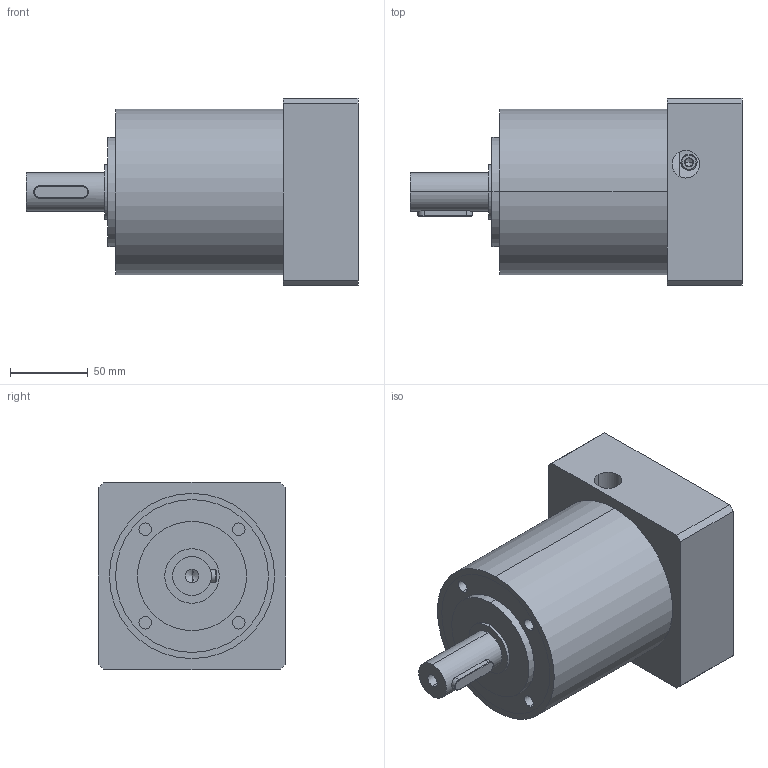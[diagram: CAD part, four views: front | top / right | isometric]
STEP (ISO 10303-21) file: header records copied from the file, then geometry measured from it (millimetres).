
FILE_DESCRIPTION (( 'STEP AP214' ), '1' );
FILE_NAME ('HTRG10N___MHS40224M_1stage_10.STEP', '2019-10-14T03:32:19', ( '' ), ( '' ), 'SwSTEP 2.0', 'SolidWorks 2018', '' );
FILE_SCHEMA (( 'AUTOMOTIVE_DESIGN' ));
Length unit declared in the file: millimetre
Products named in the file (1): HTRG10N___MHS40224M_1stage_10
Bounding box: 213 x 120 x 120 mm (x, y, z)
Volume: 1474136.5 mm3; surface area: 176129.6 mm2
Topology: 9 solids, 9 shells, 179 faces, 395 edges, 252 vertices
Faces by surface type: cylinder 90, plane 62, cone 23, bspline 4
Entity records: 5589 total; most frequent: CARTESIAN_POINT 1362, DIRECTION 919, ORIENTED_EDGE 782, EDGE_CURVE 391, AXIS2_PLACEMENT_3D 379, VERTEX_POINT 252, EDGE_LOOP 217, CIRCLE 203
